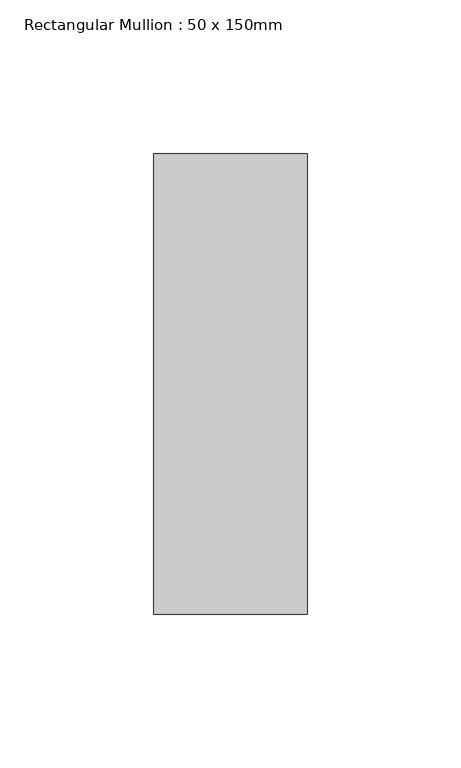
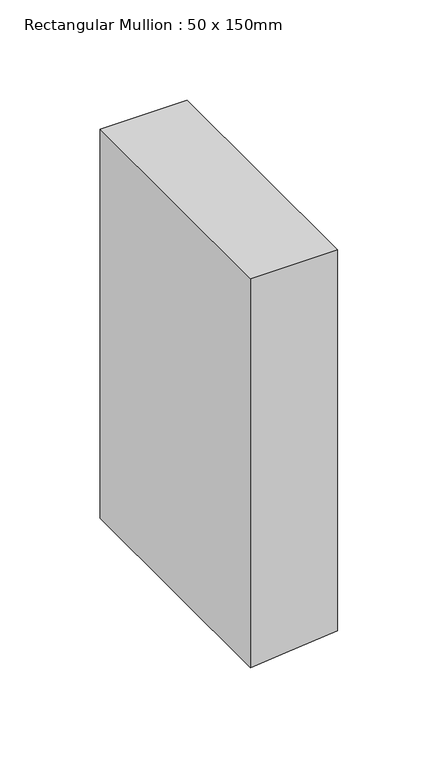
"""IFC4 building model written with IfcOpenShell, lengths in millimetres: member geometry, Rectangular Mullion : 50 x 150mm."""

from ifc_helpers import new_model, si_unit, frame, origin, place, context, project, spatial, polyline, outline, extrude, source, transform, mapped, element, save


def rectangular_mullion_50_x_150mm_06aab38e(model_context):
    return source(origin(), model_context, "Body", "SweptSolid", [
        extrude(outline(polyline([(0.0, 25.0), (0.0, -25.0), (-236.5546553, -25.0), (-234.5438882, -5.0022633), (-231.5271686, 25.0), (0.0, 25.0)])), frame((0.0, -75.0, 0.0), z_axis=(0.0, 1.0, 0.0), x_axis=(0.0, 0.0, 1.0)), (0.0, 0.0, 1.0), 150.0),
    ])


if __name__ == "__main__":
    model = new_model("IFC4")
    model_context = context("Model", 3, world=origin())
    ifc_project = project(units=[si_unit("LENGTHUNIT", "METRE", prefix="MILLI")], contexts=[model_context])
    site = spatial("IfcSite", under=ifc_project)
    building = spatial("IfcBuilding", under=site)
    placement = place(None, origin())
    rectangular_mullion_50_x_150mm_shape = rectangular_mullion_50_x_150mm_06aab38e(model_context)
    element("IfcMember", 1, ObjectType="Rectangular Mullion : 50 x 150mm", at=placement, inside=building, context=model_context, shape_type="MappedRepresentation", body=[
        mapped(rectangular_mullion_50_x_150mm_shape, transform((0.0, 0.0, 0.0), x_axis=(1.0, 0.0, 0.0), y_axis=(0.0, 1.0, 0.0), z_axis=(0.0, 0.0, 1.0))),
    ])
    save(model, "model.ifc")
